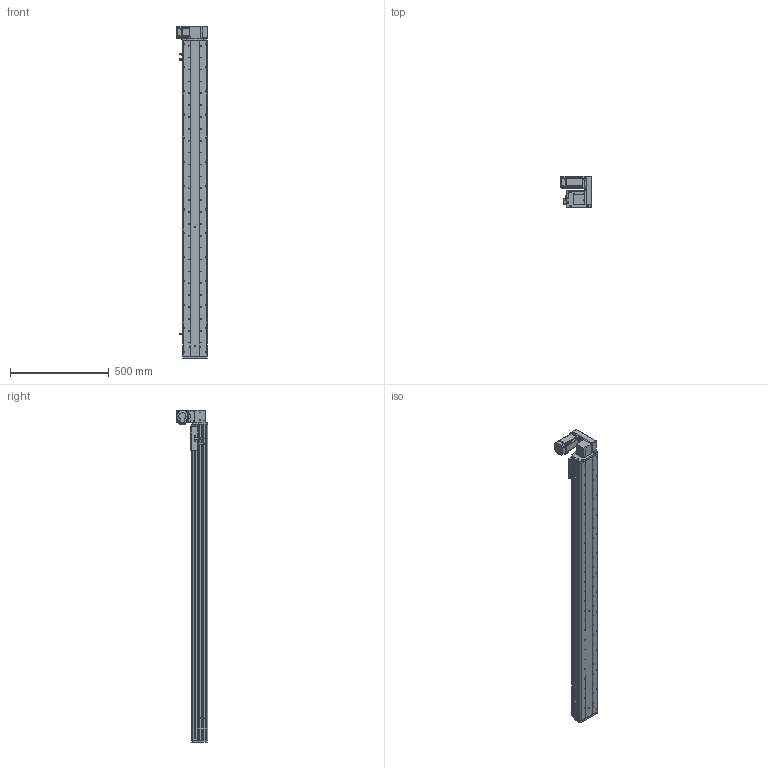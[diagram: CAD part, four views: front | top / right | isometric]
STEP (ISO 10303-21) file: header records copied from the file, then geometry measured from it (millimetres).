
FILE_DESCRIPTION (( 'STEP AP214' ), '1' );
FILE_NAME ('KSD125B-S1400-MLU-CM.STEP', '2017-10-21T03:38:11', ( '微软用户' ), ( '微软中国' ), 'SwSTEP 2.0', 'SolidWorks 2014', '' );
FILE_SCHEMA (( 'AUTOMOTIVE_DESIGN' ));
Length unit declared in the file: millimetre
Products named in the file (17): 覜茼え68遵圉猾敕; U倰嫖萇假蚾璃; U倰嫖萇EEㄜSX672; KSD125模组同步带-防撞垫1; 前端板-125宽模组同步带; 125模组同步带-尾端板1; KSD125模组同步带-滑动座1; KSD125B-S1400-MLU-CM; 悵誘欶奻狟殏; 100宽马达安装板连板上下折丝杆同步带; HTPA30S3M150_A_H6_a佪裝蚚; HTPA30S3M150_A_H6_a萇儂蚚; 100宽马达安装板同步带左; KSD125模组1400行程同步带-防尘盖; 125模组1400行程同步带-底板; MHMD042G1CA_2_03; KSD125模组同步带-防撞垫2
Assembly tree (20 placements, depth 2):
  KSD125B-S1400-MLU-CM
    KSD125模组同步带-滑动座1
    125模组同步带-尾端板1
    前端板-125宽模组同步带
    KSD125模组同步带-防撞垫1
    U倰嫖萇EEㄜSX672  x3
    U倰嫖萇假蚾璃  x3
    覜茼え68遵圉猾敕
    KSD125模组同步带-防撞垫2
    MHMD042G1CA_2_03
    125模组1400行程同步带-底板
    KSD125模组1400行程同步带-防尘盖
    100宽马达安装板同步带左
    HTPA30S3M150_A_H6_a萇儂蚚
    HTPA30S3M150_A_H6_a佪裝蚚
    100宽马达安装板连板上下折丝杆同步带
    悵誘欶奻狟殏
Bounding box: 155 x 157.5 x 1677 mm (x, y, z)
Volume: 4991567.5 mm3; surface area: 1658068.1 mm2
Topology: 19 solids, 22 shells, 2379 faces, 6901 edges, 4562 vertices
Faces by surface type: cylinder 1516, plane 736, cone 105, bspline 22
Entity records: 85151 total; most frequent: CARTESIAN_POINT 16767, DIRECTION 13226, ORIENTED_EDGE 12322, EDGE_CURVE 6239, AXIS2_PLACEMENT_3D 5133, VERTEX_POINT 4154, CIRCLE 2972, VECTOR 2960
